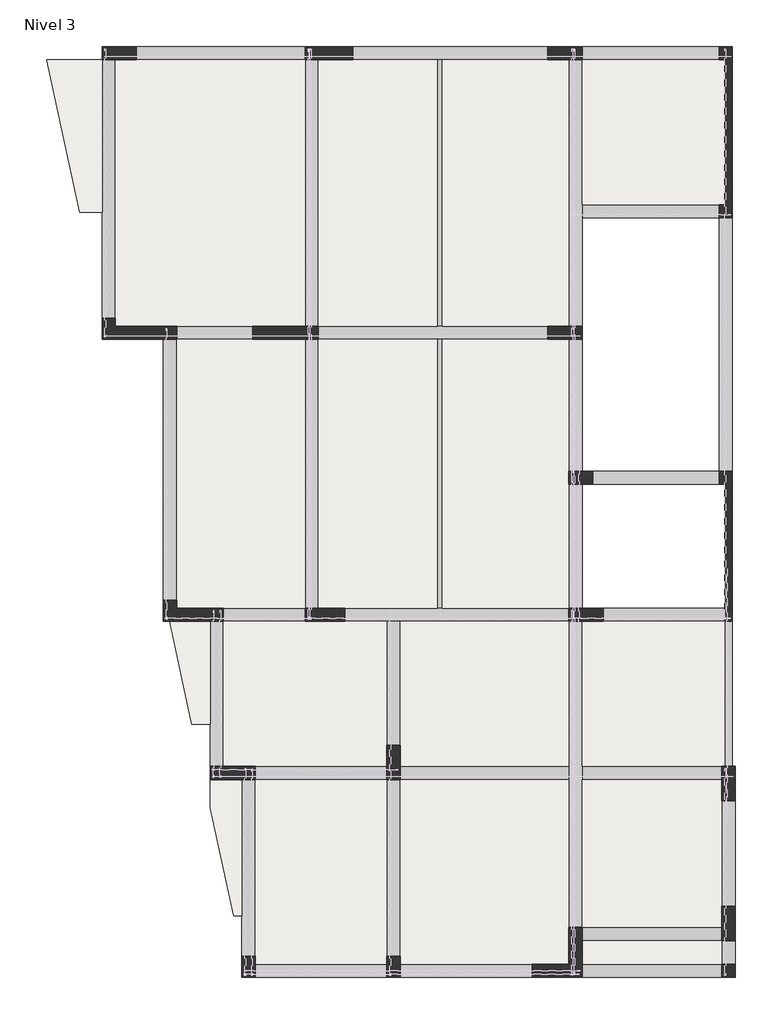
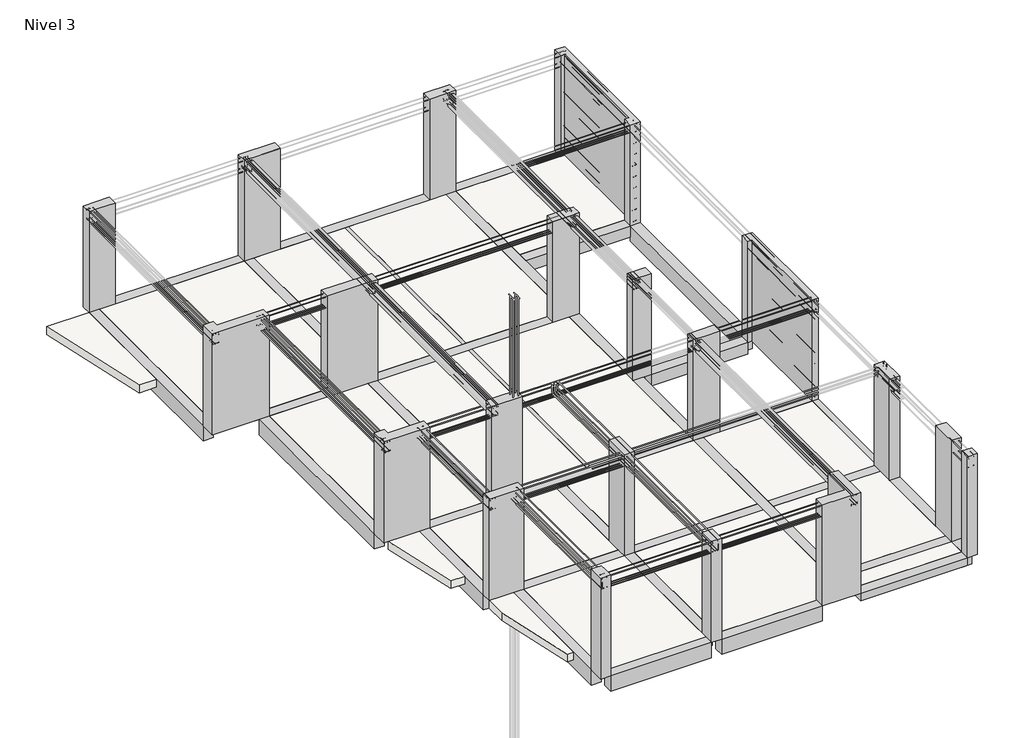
# One storey, part 1 of 4: 35 beams, 20 columns, 17 slabs.
"""IFC4 building model written with IfcOpenShell, lengths in millimetres."""

from ifc_helpers import new_model, si_unit, frame, origin, place, context, project, spatial, polyline, outline, extrude, faceted_brep, transform, mapped, element, save
from components import viga_rectangular_evg_rect_10x20cm_33a10ffb, viga_rectangular_evg_rect_10x20cm_1bd2aa7d, viga_rectangular_evg_rect_15x40_cm_c549a8b6, viga_rectangular_evg_rect_25x20_cm_6cef108b, viga_rectangular_evg_rect_25x20_cm_76eb4939, viga_rectangular_evg_rect_25x20_cm_9c3e1b78, viga_rectangular_evg_rect_25x30cm_620da6b6, viga_rectangular_evg_rect_25x30cm_a66d10a6, viga_rectangular_evg_rect_25x40_cm_2bdd148a, viga_rectangular_evg_rect_25x40_cm_41408228, viga_rectangular_evg_rect_25x40_cm_6a1f8600, viga_rectangular_evg_rect_25x40_cm_fbb3c78d, viga_rectangular_evg_rect_25x40_cm_da4bb42e, viga_rectangular_evg_rect_25x40_cm_90d5ee12, viga_rectangular_evg_rect_25x40_cm_d11aaed7, viga_rectangular_evg_rect_25x40_cm_ec8e30a6, viga_rectangular_evg_rect_25x40_cm_c621c72f, viga_rectangular_evg_rect_25x40_cm_b76ac871, viga_rectangular_evg_rect_25x40_cm_42ceb3dc, viga_rectangular_evg_rect_25x40_cm_400539a3, viga_rectangular_evg_rect_25x40_cm_b1d61e0d, viga_rectangular_evg_rect_25x40_cm_961303b6, viga_rectangular_evg_rect_25x40_cm_5bf8f6ca, viga_rectangular_evg_rect_25x40_cm_e96bc27a, viga_rectangular_evg_rect_25x40_cm_8e48b35e, viga_rectangular_evg_rect_25x40_cm_19945e5e, viga_rectangular_evg_rect_25x40_cm_a6a9dfc2, viga_rectangular_evg_rect_25x40_cm_1dd9ab3c, viga_rectangular_evg_rect_25x40_cm_08c52653, viga_rectangular_evg_rect_25x40_cm_b007f258, viga_rectangular_evg_rect_25x40_cm_85c841cc, column_ebed28f4, column_c322f5df, column_15301578, column_57c9f959, columna_estructural_rectangular_eco_rect_25x25_cm_815699de, columna_estructural_u_eco_u_25x325x25x15_0f70cbe8

model = new_model("IFC4")

# Units and contexts
model_context = context("Model", 3, world=origin())
ifc_project = project(units=[si_unit("LENGTHUNIT", "METRE", prefix="MILLI")], contexts=[model_context])

# Site, building, storey
site = spatial("IfcSite", under=ifc_project)
building = spatial("IfcBuilding", under=site)
storey = spatial("IfcBuildingStorey", under=building, Name="Nivel 3", Elevation=5400.0)

# Beams
placement = place(None, origin())
viga_rectangular_evg_rect_10x20cm_shape = viga_rectangular_evg_rect_10x20cm_33a10ffb(model_context)
element("IfcBeam", 1, ObjectType="Viga Rectangular : EVG_Rect 10x20cm", at=placement, inside=storey, context=model_context, shape_type="MappedRepresentation", body=[
    mapped(viga_rectangular_evg_rect_10x20cm_shape, transform((3750.0, 9550.0, 5400.0), x_axis=(0.0, 1.0, 0.0), y_axis=(-1.0, 0.0, 0.0), z_axis=(0.0, 0.0, 1.0))),
])
viga_rectangular_evg_rect_10x20cm_2_shape = viga_rectangular_evg_rect_10x20cm_1bd2aa7d(model_context)
element("IfcBeam", 2, ObjectType="Viga Rectangular : EVG_Rect 10x20cm", at=placement, inside=storey, context=model_context, shape_type="MappedRepresentation", body=[
    mapped(viga_rectangular_evg_rect_10x20cm_2_shape, transform((3750.0, 14875.0, 5400.0), x_axis=(0.0, 1.0, 0.0), y_axis=(-1.0, 0.0, 0.0), z_axis=(0.0, 0.0, 1.0))),
])
viga_rectangular_evg_rect_15x40_cm_shape = viga_rectangular_evg_rect_15x40_cm_c549a8b6(model_context)
element("IfcBeam", 3, ObjectType="Viga Rectangular : EVG_Rect 15x40 cm", at=placement, inside=storey, context=model_context, shape_type="MappedRepresentation", body=[
    mapped(viga_rectangular_evg_rect_15x40_cm_shape, transform((9225.0, 5375.0, 5400.0), x_axis=(0.0, -1.0, 0.0), y_axis=(1.0, 0.0, 0.0), z_axis=(0.0, 0.0, 1.0))),
])
viga_rectangular_evg_rect_25x20_cm_shape = viga_rectangular_evg_rect_25x20_cm_6cef108b(model_context)
element("IfcBeam", 4, ObjectType="Viga Rectangular : EVG_Rect 25x20 cm", at=placement, inside=storey, context=model_context, shape_type="MappedRepresentation", body=[
    mapped(viga_rectangular_evg_rect_25x20_cm_shape, transform((6325.0, 8175.0, 5400.0), x_axis=(0.0, 1.0, 0.0), y_axis=(-1.0, 0.0, 0.0), z_axis=(0.0, 0.0, 1.0))),
])
viga_rectangular_evg_rect_25x20_cm_2_shape = viga_rectangular_evg_rect_25x20_cm_76eb4939(model_context)
element("IfcBeam", 5, ObjectType="Viga Rectangular : EVG_Rect 25x20 cm", at=placement, inside=storey, context=model_context, shape_type="MappedRepresentation", body=[
    mapped(viga_rectangular_evg_rect_25x20_cm_2_shape, transform((4600.0, 3875.0, 5400.0), x_axis=(1.0, 0.0, 0.0), y_axis=(0.0, 1.0, 0.0), z_axis=(0.0, 0.0, 1.0))),
])
viga_rectangular_evg_rect_25x20_cm_3_shape = viga_rectangular_evg_rect_25x20_cm_9c3e1b78(model_context)
element("IfcBeam", 6, ObjectType="Viga Rectangular : EVG_Rect 25x20 cm", at=placement, inside=storey, context=model_context, shape_type="MappedRepresentation", body=[
    mapped(viga_rectangular_evg_rect_25x20_cm_3_shape, transform((7775.0, 3875.0, 5400.0), x_axis=(1.0, 0.0, 0.0), y_axis=(0.0, 1.0, 0.0), z_axis=(0.0, 0.0, 1.0))),
])
element("IfcBeam", 7, ObjectType="Viga Rectangular : EVG_Rect 25x20 cm", at=placement, inside=storey, context=model_context, shape_type="MappedRepresentation", body=[
    mapped(viga_rectangular_evg_rect_25x20_cm_3_shape, transform((7775.0, 825.0, 5400.0), x_axis=(-1.0, 0.0, 0.0), y_axis=(0.0, -1.0, 0.0), z_axis=(0.0, 0.0, 1.0))),
])
element("IfcBeam", 8, ObjectType="Viga Rectangular : EVG_Rect 25x20 cm", at=placement, inside=storey, context=model_context, shape_type="MappedRepresentation", body=[
    mapped(viga_rectangular_evg_rect_25x20_cm_3_shape, transform((7775.0, 125.0, 5400.0), x_axis=(-1.0, 0.0, 0.0), y_axis=(0.0, -1.0, 0.0), z_axis=(0.0, 0.0, 1.0))),
])
viga_rectangular_evg_rect_25x30cm_shape = viga_rectangular_evg_rect_25x30cm_620da6b6(model_context)
element("IfcBeam", 9, ObjectType="Viga Rectangular : EVG_Rect 25x30cm", at=placement, inside=storey, context=model_context, shape_type="MappedRepresentation", body=[
    mapped(viga_rectangular_evg_rect_25x30cm_shape, transform((7800.0, 9475.0, 5400.0), x_axis=(1.0, 0.0, 0.0), y_axis=(0.0, 1.0, 0.0), z_axis=(0.0, 0.0, 1.0))),
])
viga_rectangular_evg_rect_25x30cm_2_shape = viga_rectangular_evg_rect_25x30cm_a66d10a6(model_context)
element("IfcBeam", 10, ObjectType="Viga Rectangular : EVG_Rect 25x30cm", at=placement, inside=storey, context=model_context, shape_type="MappedRepresentation", body=[
    mapped(viga_rectangular_evg_rect_25x30cm_2_shape, transform((7750.0, 14525.0, 5400.0), x_axis=(-1.0, 0.0, 0.0), y_axis=(0.0, -1.0, 0.0), z_axis=(0.0, 0.0, 1.0))),
])
viga_rectangular_evg_rect_25x40_cm_shape = viga_rectangular_evg_rect_25x40_cm_2bdd148a(model_context)
element("IfcBeam", 11, ObjectType="Viga Rectangular : EVG_Rect 25x40 cm", at=placement, inside=storey, context=model_context, shape_type="MappedRepresentation", body=[
    mapped(viga_rectangular_evg_rect_25x40_cm_shape, transform((6325.0, 3675.0, 5400.0), x_axis=(0.0, 1.0, 0.0), y_axis=(-1.0, 0.0, 0.0), z_axis=(0.0, 0.0, 1.0))),
])
viga_rectangular_evg_rect_25x40_cm_2_shape = viga_rectangular_evg_rect_25x40_cm_41408228(model_context)
element("IfcBeam", 12, ObjectType="Viga Rectangular : EVG_Rect 25x40 cm", at=placement, inside=storey, context=model_context, shape_type="MappedRepresentation", body=[
    mapped(viga_rectangular_evg_rect_25x40_cm_2_shape, transform((3425.0, 12225.0, 5400.0), x_axis=(-1.0, 0.0, 0.0), y_axis=(0.0, -1.0, 0.0), z_axis=(0.0, 0.0, 1.0))),
])
viga_rectangular_evg_rect_25x40_cm_3_shape = viga_rectangular_evg_rect_25x40_cm_6a1f8600(model_context)
element("IfcBeam", 13, ObjectType="Viga Rectangular : EVG_Rect 25x40 cm", at=placement, inside=storey, context=model_context, shape_type="MappedRepresentation", body=[
    mapped(viga_rectangular_evg_rect_25x40_cm_3_shape, transform((-560.0, 12225.0, 5400.0), x_axis=(1.0, 0.0, 0.0), y_axis=(0.0, 1.0, 0.0), z_axis=(0.0, 0.0, 1.0))),
])
viga_rectangular_evg_rect_25x40_cm_4_shape = viga_rectangular_evg_rect_25x40_cm_fbb3c78d(model_context)
element("IfcBeam", 14, ObjectType="Viga Rectangular : EVG_Rect 25x40 cm", at=placement, inside=storey, context=model_context, shape_type="MappedRepresentation", body=[
    mapped(viga_rectangular_evg_rect_25x40_cm_4_shape, transform((-337.5, 17525.0, 5400.0), x_axis=(1.0, 0.0, 0.0), y_axis=(0.0, 1.0, 0.0), z_axis=(0.0, 0.0, 1.0))),
])
viga_rectangular_evg_rect_25x40_cm_5_shape = viga_rectangular_evg_rect_25x40_cm_da4bb42e(model_context)
element("IfcBeam", 15, ObjectType="Viga Rectangular : EVG_Rect 25x40 cm", at=placement, inside=storey, context=model_context, shape_type="MappedRepresentation", body=[
    mapped(viga_rectangular_evg_rect_25x40_cm_5_shape, transform((3887.5, 17525.0, 5400.0), x_axis=(1.0, 0.0, 0.0), y_axis=(0.0, 1.0, 0.0), z_axis=(0.0, 0.0, 1.0))),
])
viga_rectangular_evg_rect_25x40_cm_6_shape = viga_rectangular_evg_rect_25x40_cm_90d5ee12(model_context)
element("IfcBeam", 16, ObjectType="Viga Rectangular : EVG_Rect 25x40 cm", at=placement, inside=storey, context=model_context, shape_type="MappedRepresentation", body=[
    mapped(viga_rectangular_evg_rect_25x40_cm_6_shape, transform((1350.0, 3875.0, 5400.0), x_axis=(1.0, 0.0, 0.0), y_axis=(0.0, 1.0, 0.0), z_axis=(0.0, 0.0, 1.0))),
])
viga_rectangular_evg_rect_25x40_cm_7_shape = viga_rectangular_evg_rect_25x40_cm_d11aaed7(model_context)
element("IfcBeam", 17, ObjectType="Viga Rectangular : EVG_Rect 25x40 cm", at=placement, inside=storey, context=model_context, shape_type="MappedRepresentation", body=[
    mapped(viga_rectangular_evg_rect_25x40_cm_7_shape, transform((1500.0, 125.0, 5400.0), x_axis=(-1.0, 0.0, 0.0), y_axis=(0.0, -1.0, 0.0), z_axis=(0.0, 0.0, 1.0))),
])
element("IfcBeam", 18, ObjectType="Viga Rectangular : EVG_Rect 25x40 cm", at=placement, inside=storey, context=model_context, shape_type="MappedRepresentation", body=[
    mapped(viga_rectangular_evg_rect_25x40_cm_7_shape, transform((6325.0, 10850.0, 5400.0), x_axis=(0.0, 1.0, 0.0), y_axis=(-1.0, 0.0, 0.0), z_axis=(0.0, 0.0, 1.0))),
])
viga_rectangular_evg_rect_25x40_cm_8_shape = viga_rectangular_evg_rect_25x40_cm_ec8e30a6(model_context)
element("IfcBeam", 19, ObjectType="Viga Rectangular : EVG_Rect 25x40 cm", at=placement, inside=storey, context=model_context, shape_type="MappedRepresentation", body=[
    mapped(viga_rectangular_evg_rect_25x40_cm_8_shape, transform((4600.0, 125.0, 5400.0), x_axis=(1.0, 0.0, 0.0), y_axis=(0.0, 1.0, 0.0), z_axis=(0.0, 0.0, 1.0))),
])
viga_rectangular_evg_rect_25x40_cm_9_shape = viga_rectangular_evg_rect_25x40_cm_c621c72f(model_context)
element("IfcBeam", 20, ObjectType="Viga Rectangular : EVG_Rect 25x40 cm", at=placement, inside=storey, context=model_context, shape_type="MappedRepresentation", body=[
    mapped(viga_rectangular_evg_rect_25x40_cm_9_shape, transform((125.0, 2037.5, 5400.0), x_axis=(0.0, 1.0, 0.0), y_axis=(-1.0, 0.0, 0.0), z_axis=(0.0, 0.0, 1.0))),
])
viga_rectangular_evg_rect_25x40_cm_10_shape = viga_rectangular_evg_rect_25x40_cm_b76ac871(model_context)
element("IfcBeam", 21, ObjectType="Viga Rectangular : EVG_Rect 25x40 cm", at=placement, inside=storey, context=model_context, shape_type="MappedRepresentation", body=[
    mapped(viga_rectangular_evg_rect_25x40_cm_10_shape, transform((2875.0, 2137.5, 5400.0), x_axis=(0.0, 1.0, 0.0), y_axis=(-1.0, 0.0, 0.0), z_axis=(0.0, 0.0, 1.0))),
])
viga_rectangular_evg_rect_25x40_cm_11_shape = viga_rectangular_evg_rect_25x40_cm_42ceb3dc(model_context)
element("IfcBeam", 22, ObjectType="Viga Rectangular : EVG_Rect 25x40 cm", at=placement, inside=storey, context=model_context, shape_type="MappedRepresentation", body=[
    mapped(viga_rectangular_evg_rect_25x40_cm_11_shape, transform((-475.0, 5375.0, 5400.0), x_axis=(0.0, 1.0, 0.0), y_axis=(-1.0, 0.0, 0.0), z_axis=(0.0, 0.0, 1.0))),
])
viga_rectangular_evg_rect_25x40_cm_12_shape = viga_rectangular_evg_rect_25x40_cm_400539a3(model_context)
element("IfcBeam", 23, ObjectType="Viga Rectangular : EVG_Rect 25x40 cm", at=placement, inside=storey, context=model_context, shape_type="MappedRepresentation", body=[
    mapped(viga_rectangular_evg_rect_25x40_cm_12_shape, transform((9225.0, 575.0, 5400.0), x_axis=(0.0, 1.0, 0.0), y_axis=(-1.0, 0.0, 0.0), z_axis=(0.0, 0.0, 1.0))),
])
viga_rectangular_evg_rect_25x40_cm_13_shape = viga_rectangular_evg_rect_25x40_cm_b1d61e0d(model_context)
element("IfcBeam", 24, ObjectType="Viga Rectangular : EVG_Rect 25x40 cm", at=placement, inside=storey, context=model_context, shape_type="MappedRepresentation", body=[
    mapped(viga_rectangular_evg_rect_25x40_cm_13_shape, transform((9225.0, 2350.0, 5400.0), x_axis=(0.0, 1.0, 0.0), y_axis=(-1.0, 0.0, 0.0), z_axis=(0.0, 0.0, 1.0))),
])
viga_rectangular_evg_rect_25x40_cm_14_shape = viga_rectangular_evg_rect_25x40_cm_961303b6(model_context)
element("IfcBeam", 25, ObjectType="Viga Rectangular : EVG_Rect 25x40 cm", at=placement, inside=storey, context=model_context, shape_type="MappedRepresentation", body=[
    mapped(viga_rectangular_evg_rect_25x40_cm_14_shape, transform((7875.0, 6875.0, 5400.0), x_axis=(1.0, 0.0, 0.0), y_axis=(0.0, 1.0, 0.0), z_axis=(0.0, 0.0, 1.0))),
])
viga_rectangular_evg_rect_25x40_cm_15_shape = viga_rectangular_evg_rect_25x40_cm_5bf8f6ca(model_context)
element("IfcBeam", 26, ObjectType="Viga Rectangular : EVG_Rect 25x40 cm", at=placement, inside=storey, context=model_context, shape_type="MappedRepresentation", body=[
    mapped(viga_rectangular_evg_rect_25x40_cm_15_shape, transform((-1365.0, 9587.5, 5400.0), x_axis=(0.0, 1.0, 0.0), y_axis=(-1.0, 0.0, 0.0), z_axis=(0.0, 0.0, 1.0))),
])
viga_rectangular_evg_rect_25x40_cm_16_shape = viga_rectangular_evg_rect_25x40_cm_e96bc27a(model_context)
element("IfcBeam", 27, ObjectType="Viga Rectangular : EVG_Rect 25x40 cm", at=placement, inside=storey, context=model_context, shape_type="MappedRepresentation", body=[
    mapped(viga_rectangular_evg_rect_25x40_cm_16_shape, transform((9175.0, 11985.0, 5400.0), x_axis=(0.0, 1.0, 0.0), y_axis=(-1.0, 0.0, 0.0), z_axis=(0.0, 0.0, 1.0))),
])
viga_rectangular_evg_rect_25x40_cm_17_shape = viga_rectangular_evg_rect_25x40_cm_8e48b35e(model_context)
element("IfcBeam", 28, ObjectType="Viga Rectangular : EVG_Rect 25x40 cm", at=placement, inside=storey, context=model_context, shape_type="MappedRepresentation", body=[
    mapped(viga_rectangular_evg_rect_25x40_cm_17_shape, transform((6325.0, 14875.0, 5400.0), x_axis=(0.0, 1.0, 0.0), y_axis=(-1.0, 0.0, 0.0), z_axis=(0.0, 0.0, 1.0))),
])
element("IfcBeam", 29, ObjectType="Viga Rectangular : EVG_Rect 25x40 cm", at=placement, inside=storey, context=model_context, shape_type="MappedRepresentation", body=[
    mapped(viga_rectangular_evg_rect_25x40_cm_17_shape, transform((1325.0, 14875.0, 5400.0), x_axis=(0.0, 1.0, 0.0), y_axis=(-1.0, 0.0, 0.0), z_axis=(0.0, 0.0, 1.0))),
])
viga_rectangular_evg_rect_25x40_cm_18_shape = viga_rectangular_evg_rect_25x40_cm_19945e5e(model_context)
element("IfcBeam", 30, ObjectType="Viga Rectangular : EVG_Rect 25x40 cm", at=placement, inside=storey, context=model_context, shape_type="MappedRepresentation", body=[
    mapped(viga_rectangular_evg_rect_25x40_cm_18_shape, transform((-2525.0, 14912.5, 5400.0), x_axis=(0.0, 1.0, 0.0), y_axis=(-1.0, 0.0, 0.0), z_axis=(0.0, 0.0, 1.0))),
])
viga_rectangular_evg_rect_25x40_cm_19_shape = viga_rectangular_evg_rect_25x40_cm_a6a9dfc2(model_context)
element("IfcBeam", 31, ObjectType="Viga Rectangular : EVG_Rect 25x40 cm", at=placement, inside=storey, context=model_context, shape_type="MappedRepresentation", body=[
    mapped(viga_rectangular_evg_rect_25x40_cm_19_shape, transform((327.5, 6875.0, 5400.0), x_axis=(1.0, 0.0, 0.0), y_axis=(0.0, 1.0, 0.0), z_axis=(0.0, 0.0, 1.0))),
])
viga_rectangular_evg_rect_25x40_cm_20_shape = viga_rectangular_evg_rect_25x40_cm_1dd9ab3c(model_context)
element("IfcBeam", 32, ObjectType="Viga Rectangular : EVG_Rect 25x40 cm", at=placement, inside=storey, context=model_context, shape_type="MappedRepresentation", body=[
    mapped(viga_rectangular_evg_rect_25x40_cm_20_shape, transform((4050.0, 6875.0, 5400.0), x_axis=(-1.0, 0.0, 0.0), y_axis=(0.0, -1.0, 0.0), z_axis=(0.0, 0.0, 1.0))),
])
viga_rectangular_evg_rect_25x40_cm_21_shape = viga_rectangular_evg_rect_25x40_cm_08c52653(model_context)
element("IfcBeam", 33, ObjectType="Viga Rectangular : EVG_Rect 25x40 cm", at=placement, inside=storey, context=model_context, shape_type="MappedRepresentation", body=[
    mapped(viga_rectangular_evg_rect_25x40_cm_21_shape, transform((2875.0, 5502.6028662, 5400.0), x_axis=(0.0, 1.0, 0.0), y_axis=(-1.0, 0.0, 0.0), z_axis=(0.0, 0.0, 1.0))),
])
viga_rectangular_evg_rect_25x40_cm_22_shape = viga_rectangular_evg_rect_25x40_cm_b007f258(model_context)
element("IfcBeam", 34, ObjectType="Viga Rectangular : EVG_Rect 25x40 cm", at=placement, inside=storey, context=model_context, shape_type="MappedRepresentation", body=[
    mapped(viga_rectangular_evg_rect_25x40_cm_22_shape, transform((1325.0, 9541.2430955, 5400.0), x_axis=(0.0, 1.0, 0.0), y_axis=(-1.0, 0.0, 0.0), z_axis=(0.0, 0.0, 1.0))),
])
viga_rectangular_evg_rect_25x40_cm_23_shape = viga_rectangular_evg_rect_25x40_cm_85c841cc(model_context)
element("IfcBeam", 35, ObjectType="Viga Rectangular : EVG_Rect 25x40 cm", at=placement, inside=storey, context=model_context, shape_type="MappedRepresentation", body=[
    mapped(viga_rectangular_evg_rect_25x40_cm_23_shape, transform((7675.0, 17525.0, 5400.0), x_axis=(1.0, 0.0, 0.0), y_axis=(0.0, 1.0, 0.0), z_axis=(0.0, 0.0, 1.0))),
])

# Columns
column_shape = column_ebed28f4(model_context)
element("IfcColumn", 36, ObjectType="Columna Estructural Ele : ECO_Ele 40x141x25", at=placement, inside=storey, context=model_context, shape_type="MappedRepresentation", body=[
    mapped(column_shape, transform((-2525.0, 12225.0, 0.0), x_axis=(1.0, 0.0, 0.0), y_axis=(0.0, 1.0, 0.0), z_axis=(0.0, 0.0, 1.0))),
])
column_2_shape = column_c322f5df(model_context)
element("IfcColumn", 37, ObjectType="Columna Estructural Ele : ECO_Ele 40x114x25", at=placement, inside=storey, context=model_context, shape_type="MappedRepresentation", body=[
    mapped(column_2_shape, transform((-1365.0, 6875.0, 0.0), x_axis=(1.0, 0.0, 0.0), y_axis=(0.0, 1.0, 0.0), z_axis=(0.0, 0.0, 1.0))),
])
column_3_shape = column_15301578(model_context)
element("IfcColumn", 38, ObjectType="Columna Estructural Ele : ECO_Ele 25x285x25", at=placement, inside=storey, context=model_context, shape_type="MappedRepresentation", body=[
    mapped(column_3_shape, transform((9225.0, 9475.0, 0.0), x_axis=(0.0, -1.0, 0.0), y_axis=(1.0, 0.0, 0.0), z_axis=(0.0, 0.0, 1.0))),
])
column_4_shape = column_57c9f959(model_context)
element("IfcColumn", 39, ObjectType="Columna Estructural Ele : ECO_Ele 95x95x25", at=placement, inside=storey, context=model_context, shape_type="MappedRepresentation", body=[
    mapped(column_4_shape, transform((6325.0, 125.0, 0.0), x_axis=(0.0, 1.0, 0.0), y_axis=(-1.0, 0.0, 0.0), z_axis=(0.0, 0.0, 1.0))),
])
element("IfcColumn", 40, ObjectType="Columna Estructural Rectangular : ECO_Rect. 25x125 cm", at=placement, inside=storey, context=model_context, shape_type="Brep", body=[
    faceted_brep([(200.0, 12350.0, 5400.0), (1450.0, 12350.0, 5400.0), (1450.0, 12100.0, 5400.0), (200.0, 12100.0, 5400.0), (200.0, 12350.0, 8050.0), (1200.0, 12350.0, 8050.0), (1450.0, 12350.0, 8050.0), (1450.0, 12100.0, 8050.0), (1200.0, 12100.0, 8050.0), (200.0, 12100.0, 8050.0)], [[[0, 1, 2, 3]], [[4, 5, 6, 1, 0]], [[6, 7, 2, 1]], [[7, 8, 9, 3, 2]], [[9, 4, 0, 3]], [[4, 9, 8, 7, 6, 5]]]),
])
columna_estructural_rectangular_eco_rect_25x25_cm_shape = columna_estructural_rectangular_eco_rect_25x25_cm_815699de(model_context)
element("IfcColumn", 41, ObjectType="Columna Estructural Rectangular : ECO_Rect. 25x25 cm", at=placement, inside=storey, context=model_context, shape_type="MappedRepresentation", body=[
    mapped(columna_estructural_rectangular_eco_rect_25x25_cm_shape, transform((9225.0, 125.0, 0.0), x_axis=(-1.0, 0.0, 0.0), y_axis=(0.0, -1.0, 0.0), z_axis=(0.0, 0.0, 1.0))),
])
element("IfcColumn", 42, ObjectType="Columna Estructural Rectangular : ECO_Rect. 25x40 cm", at=placement, inside=storey, context=model_context, shape_type="Brep", body=[
    faceted_brep([(0.0, 0.0, 5400.0), (0.0, 400.0, 5400.0), (250.0, 400.0, 5400.0), (250.0, 0.0, 5400.0), (0.0, 0.0, 8050.0), (0.0, 400.0, 8050.0), (250.0, 400.0, 8050.0), (250.0, 250.0, 8050.0), (250.0, 0.0, 8050.0)], [[[0, 1, 2, 3]], [[4, 5, 1, 0]], [[5, 6, 2, 1]], [[6, 7, 8, 3, 2]], [[8, 4, 0, 3]], [[4, 8, 7, 6, 5]]]),
])
element("IfcColumn", 43, ObjectType="Columna Estructural Rectangular : ECO_Rect. 25x40 cm", at=placement, inside=storey, context=model_context, shape_type="Brep", body=[
    faceted_brep([(2750.0, 0.0, 5400.0), (2750.0, 400.0, 5400.0), (3000.0, 400.0, 5400.0), (3000.0, 0.0, 5400.0), (2750.0, 0.0, 8050.0), (2750.0, 250.0, 8050.0), (2750.0, 400.0, 8050.0), (3000.0, 400.0, 8050.0), (3000.0, 250.0, 8050.0), (3000.0, 0.0, 8050.0)], [[[0, 1, 2, 3]], [[4, 5, 6, 1, 0]], [[6, 7, 2, 1]], [[7, 8, 9, 3, 2]], [[9, 4, 0, 3]], [[4, 9, 8, 7, 6, 5]]]),
])
element("IfcColumn", 44, ObjectType="Columna Estructural Rectangular : ECO_Rect. 25x45 cm", at=placement, inside=storey, context=model_context, shape_type="SweptSolid", body=[
    extrude(outline(polyline([(6200.0, 9600.0), (6650.0, 9600.0), (6650.0, 9350.0), (6200.0, 9350.0), (6200.0, 9600.0)])), frame((0.0, 0.0, 5400.0), z_axis=(0.0, 0.0, 1.0), x_axis=(1.0, 0.0, 0.0)), (0.0, 0.0, 1.0), 2650.0),
])
element("IfcColumn", 45, ObjectType="Columna Estructural Rectangular : ECO_Rect. 25x65 cm", at=placement, inside=storey, context=model_context, shape_type="Brep", body=[
    faceted_brep([(-2650.0, 17650.0, 5400.0), (-2000.0, 17650.0, 5400.0), (-2000.0, 17400.0, 5400.0), (-2650.0, 17400.0, 5400.0), (-2650.0, 17650.0, 8050.0), (-2000.0, 17650.0, 8050.0), (-2650.0, 17650.0, 7850.0), (-2000.0, 17400.0, 8050.0), (-2400.0, 17400.0, 8050.0), (-2650.0, 17400.0, 8050.0)], [[[0, 1, 2, 3]], [[4, 5, 1, 0, 6]], [[5, 7, 2, 1]], [[7, 8, 9, 3, 2]], [[9, 4, 6, 0, 3]], [[4, 9, 8, 7, 5]]]),
])
element("IfcColumn", 46, ObjectType="Columna Estructural Rectangular : ECO_Rect. 25x65 cm", at=placement, inside=storey, context=model_context, shape_type="Brep", body=[
    faceted_brep([(5800.0, 17650.0, 5400.0), (6450.0, 17650.0, 5400.0), (6450.0, 17400.0, 5400.0), (5800.0, 17400.0, 5400.0), (5800.0, 17650.0, 8050.0), (6450.0, 17650.0, 8050.0), (6450.0, 17400.0, 8050.0), (6200.0, 17400.0, 8050.0), (5800.0, 17400.0, 8050.0)], [[[0, 1, 2, 3]], [[4, 5, 1, 0]], [[5, 6, 2, 1]], [[6, 7, 8, 3, 2]], [[8, 4, 0, 3]], [[4, 8, 7, 6, 5]]]),
])
element("IfcColumn", 47, ObjectType="Columna Estructural Rectangular : ECO_Rect. 25x65 cm", at=placement, inside=storey, context=model_context, shape_type="Brep", body=[
    faceted_brep([(5800.0, 12350.0, 5400.0), (6450.0, 12350.0, 5400.0), (6450.0, 12100.0, 5400.0), (5800.0, 12100.0, 5400.0), (5800.0, 12350.0, 8050.0), (6200.0, 12350.0, 8050.0), (6450.0, 12350.0, 8050.0), (6450.0, 12100.0, 8050.0), (6200.0, 12100.0, 8050.0), (5800.0, 12100.0, 8050.0)], [[[0, 1, 2, 3]], [[4, 5, 6, 1, 0]], [[6, 7, 2, 1]], [[7, 8, 9, 3, 2]], [[9, 4, 0, 3]], [[4, 9, 8, 7, 6, 5]]]),
])
element("IfcColumn", 48, ObjectType="Columna Estructural Rectangular : ECO_Rect. 25x65 cm", at=placement, inside=storey, context=model_context, shape_type="Brep", body=[
    faceted_brep([(6200.0, 7000.0, 5400.0), (6850.0, 7000.0, 5400.0), (6850.0, 6750.0, 5400.0), (6200.0, 6750.0, 5400.0), (6200.0, 7000.0, 8050.0), (6850.0, 7000.0, 8050.0), (6850.0, 6750.0, 8050.0), (6450.0, 6750.0, 8050.0), (6200.0, 6750.0, 8050.0)], [[[0, 1, 2, 3]], [[4, 5, 1, 0]], [[5, 6, 2, 1]], [[6, 7, 8, 3, 2]], [[8, 4, 0, 3]], [[4, 8, 7, 6, 5]]]),
])
element("IfcColumn", 49, ObjectType="Columna Estructural Rectangular : ECO_Rect. 25x65 cm", at=placement, inside=storey, context=model_context, shape_type="Brep", body=[
    faceted_brep([(2750.0, 3750.0, 5400.0), (2750.0, 4400.0, 5400.0), (3000.0, 4400.0, 5400.0), (3000.0, 3750.0, 5400.0), (2750.0, 3750.0, 8050.0), (2750.0, 4000.0, 8050.0), (2750.0, 4400.0, 8050.0), (3000.0, 4400.0, 8050.0), (3000.0, 4000.0, 8050.0), (3000.0, 3750.0, 8050.0)], [[[0, 1, 2, 3]], [[4, 5, 6, 1, 0]], [[6, 7, 2, 1]], [[7, 8, 9, 3, 2]], [[9, 4, 0, 3]], [[4, 9, 8, 7, 6, 5]]]),
])
element("IfcColumn", 50, ObjectType="Columna Estructural Rectangular : ECO_Rect. 25x65 cm", at=placement, inside=storey, context=model_context, shape_type="Brep", body=[
    faceted_brep([(9100.0, 3350.0, 5400.0), (9100.0, 4000.0, 5400.0), (9350.0, 4000.0, 5400.0), (9350.0, 3350.0, 5400.0), (9100.0, 3350.0, 8050.0), (9100.0, 3750.0, 8050.0), (9100.0, 4000.0, 8050.0), (9150.0, 4000.0, 8050.0), (9350.0, 4000.0, 8050.0), (9350.0, 3350.0, 8050.0)], [[[0, 1, 2, 3]], [[4, 5, 6, 1, 0]], [[6, 7, 8, 2, 1]], [[8, 9, 3, 2]], [[9, 4, 0, 3]], [[4, 9, 8, 7, 6, 5]]]),
])
element("IfcColumn", 51, ObjectType="Columna Estructural Rectangular : ECO_Rect. 25x65 cm", at=placement, inside=storey, context=model_context, shape_type="Brep", body=[
    faceted_brep([(9100.0, 700.0, 5400.0), (9100.0, 1350.0, 5400.0), (9350.0, 1350.0, 5400.0), (9350.0, 700.0, 5400.0), (9100.0, 700.0, 8050.0), (9100.0, 950.0, 8050.0), (9100.0, 1350.0, 8050.0), (9350.0, 1350.0, 8050.0), (9350.0, 700.0, 8050.0)], [[[0, 1, 2, 3]], [[4, 5, 6, 1, 0]], [[6, 7, 2, 1]], [[7, 8, 3, 2]], [[8, 4, 0, 3]], [[4, 8, 7, 6, 5]]]),
])
element("IfcColumn", 52, ObjectType="Columna Estructural Rectangular : ECO_Rect. 25x75 cm", at=placement, inside=storey, context=model_context, shape_type="Brep", body=[
    faceted_brep([(1200.0, 7000.0, 5400.0), (1950.0, 7000.0, 5400.0), (1950.0, 6750.0, 5400.0), (1200.0, 6750.0, 5400.0), (1200.0, 7000.0, 8050.0), (1450.0, 7000.0, 8050.0), (1950.0, 7000.0, 8050.0), (1950.0, 6750.0, 8050.0), (1200.0, 6750.0, 8050.0)], [[[0, 1, 2, 3]], [[4, 5, 6, 1, 0]], [[6, 7, 2, 1]], [[7, 8, 3, 2]], [[8, 4, 0, 3]], [[4, 8, 7, 6, 5]]]),
])
element("IfcColumn", 53, ObjectType="Columna Estructural Rectangular : ECO_Rect. 25x85 cm", at=placement, inside=storey, context=model_context, shape_type="Brep", body=[
    faceted_brep([(-600.0, 4000.0, 5400.0), (250.0, 4000.0, 5400.0), (250.0, 3750.0, 5400.0), (-600.0, 3750.0, 5400.0), (-600.0, 4000.0, 8050.0), (-350.0, 4000.0, 8050.0), (250.0, 4000.0, 8050.0), (250.0, 3750.0, 8050.0), (0.0, 3750.0, 8050.0), (-600.0, 3750.0, 8050.0), (-600.0, 3750.0, 7850.0)], [[[0, 1, 2, 3]], [[4, 5, 6, 1, 0]], [[6, 7, 2, 1]], [[7, 8, 9, 10, 3, 2]], [[9, 4, 0, 3, 10]], [[4, 9, 8, 7, 6, 5]]]),
])
element("IfcColumn", 54, ObjectType="Columna Estructural Rectangular : ECO_Rect. 25x90 cm", at=placement, inside=storey, context=model_context, shape_type="Brep", body=[
    faceted_brep([(1200.0, 17650.0, 5400.0), (2100.0, 17650.0, 5400.0), (2100.0, 17400.0, 5400.0), (1200.0, 17400.0, 5400.0), (1200.0, 17650.0, 8050.0), (2100.0, 17650.0, 8050.0), (2100.0, 17400.0, 8050.0), (1450.0, 17400.0, 8050.0), (1200.0, 17400.0, 8050.0)], [[[0, 1, 2, 3]], [[4, 5, 1, 0]], [[5, 6, 2, 1]], [[6, 7, 8, 3, 2]], [[8, 4, 0, 3]], [[4, 8, 7, 6, 5]]]),
])
columna_estructural_u_eco_u_25x325x25x15_shape = columna_estructural_u_eco_u_25x325x25x15_0f70cbe8(model_context)
element("IfcColumn", 55, ObjectType="Columna Estructural U : ECO_U 25x325x25x15", at=placement, inside=storey, context=model_context, shape_type="MappedRepresentation", body=[
    mapped(columna_estructural_u_eco_u_25x325x25x15_shape, transform((9225.0, 16025.0, 0.0), x_axis=(0.0, 1.0, 0.0), y_axis=(-1.0, 0.0, 0.0), z_axis=(0.0, 0.0, 1.0))),
])

# Slabs
element("IfcSlab", 56, ObjectType="ELA_Losa Aligerada e=20 cm", at=placement, inside=storey, context=model_context, shape_type="Brep", body=[
    faceted_brep([(1200.0, 17400.0, 5200.0), (1200.0, 12350.0, 5200.0), (-2400.0, 12350.0, 5200.0), (-2400.0, 17400.0, 5200.0), (1200.0, 17400.0, 5400.0), (-2000.0, 17400.0, 5400.0), (-2400.0, 17400.0, 5400.0), (-2400.0, 12350.0, 5400.0), (200.0, 12350.0, 5400.0), (1200.0, 12350.0, 5400.0)], [[[0, 1, 2, 3]], [[4, 5, 6, 7, 8, 9]], [[1, 0, 4, 9]], [[2, 1, 9, 8, 7]], [[3, 2, 7, 6]], [[0, 3, 6, 5, 4]]]),
])
element("IfcSlab", 57, ObjectType="ELA_Losa Aligerada e=20 cm", at=placement, inside=storey, context=model_context, shape_type="Brep", body=[
    faceted_brep([(3700.0, 17400.0, 5200.0), (3700.0, 12350.0, 5200.0), (1450.0, 12350.0, 5200.0), (1450.0, 17400.0, 5200.0), (3700.0, 17400.0, 5400.0), (2100.0, 17400.0, 5400.0), (1450.0, 17400.0, 5400.0), (1450.0, 12350.0, 5400.0), (3700.0, 12350.0, 5400.0)], [[[0, 1, 2, 3]], [[4, 5, 6, 7, 8]], [[1, 0, 4, 8]], [[2, 1, 8, 7]], [[3, 2, 7, 6]], [[0, 3, 6, 5, 4]]]),
])
element("IfcSlab", 58, ObjectType="ELA_Losa Aligerada e=20 cm", at=placement, inside=storey, context=model_context, shape_type="Brep", body=[
    faceted_brep([(6200.0, 17400.0, 5200.0), (6200.0, 12350.0, 5200.0), (3800.0, 12350.0, 5200.0), (3800.0, 17400.0, 5200.0), (6200.0, 17400.0, 5400.0), (5800.0, 17400.0, 5400.0), (3800.0, 17400.0, 5400.0), (3800.0, 12350.0, 5400.0), (5800.0, 12350.0, 5400.0), (6200.0, 12350.0, 5400.0)], [[[0, 1, 2, 3]], [[4, 5, 6, 7, 8, 9]], [[1, 0, 4, 9]], [[2, 1, 9, 8, 7]], [[3, 2, 7, 6]], [[0, 3, 6, 5, 4]]]),
])
element("IfcSlab", 59, ObjectType="ELA_Losa Aligerada e=20 cm", at=placement, inside=storey, context=model_context, shape_type="SweptSolid", body=[
    extrude(outline(polyline([(9150.0, 17400.0), (9150.0, 14650.0), (6450.0, 14650.0), (6450.0, 17400.0), (9150.0, 17400.0)])), frame((0.0, 0.0, 5200.0), z_axis=(0.0, 0.0, 1.0), x_axis=(1.0, 0.0, 0.0)), (0.0, 0.0, 1.0), 200.0),
])
element("IfcSlab", 60, ObjectType="ELA_Losa Aligerada e=20 cm", at=placement, inside=storey, context=model_context, shape_type="Brep", body=[
    faceted_brep([(1200.0, 12100.0, 5200.0), (1200.0, 7000.0, 5200.0), (-1240.0, 7000.0, 5200.0), (-1240.0, 12100.0, 5200.0), (1200.0, 12100.0, 5400.0), (200.0, 12100.0, 5400.0), (-1240.0, 12100.0, 5400.0), (-1240.0, 7000.0, 5400.0), (1200.0, 7000.0, 5400.0)], [[[0, 1, 2, 3]], [[4, 5, 6, 7, 8]], [[1, 0, 4, 8]], [[2, 1, 8, 7]], [[3, 2, 7, 6]], [[0, 3, 6, 5, 4]]]),
])
element("IfcSlab", 61, ObjectType="ELA_Losa Aligerada e=20 cm", at=placement, inside=storey, context=model_context, shape_type="Brep", body=[
    faceted_brep([(3700.0, 12100.0, 5200.0), (3700.0, 7000.0, 5200.0), (1450.0, 7000.0, 5200.0), (1450.0, 12100.0, 5200.0), (3700.0, 12100.0, 5400.0), (1450.0, 12100.0, 5400.0), (1450.0, 7000.0, 5400.0), (1950.0, 7000.0, 5400.0), (3700.0, 7000.0, 5400.0)], [[[0, 1, 2, 3]], [[4, 5, 6, 7, 8]], [[1, 0, 4, 8]], [[2, 1, 8, 7, 6]], [[3, 2, 6, 5]], [[0, 3, 5, 4]]]),
])
element("IfcSlab", 62, ObjectType="ELA_Losa Aligerada e=20 cm", at=placement, inside=storey, context=model_context, shape_type="Brep", body=[
    faceted_brep([(6200.0, 12100.0, 5200.0), (6200.0, 7000.0, 5200.0), (3800.0, 7000.0, 5200.0), (3800.0, 12100.0, 5200.0), (6200.0, 12100.0, 5400.0), (5800.0, 12100.0, 5400.0), (3800.0, 12100.0, 5400.0), (3800.0, 7000.0, 5400.0), (6200.0, 7000.0, 5400.0), (6200.0, 9350.0, 5400.0), (6200.0, 9600.0, 5400.0)], [[[0, 1, 2, 3]], [[4, 5, 6, 7, 8, 9, 10]], [[1, 0, 4, 10, 9, 8]], [[2, 1, 8, 7]], [[3, 2, 7, 6]], [[0, 3, 6, 5, 4]]]),
])
element("IfcSlab", 63, ObjectType="ELA_Losa Aligerada e=20 cm", at=placement, inside=storey, context=model_context, shape_type="Brep", body=[
    faceted_brep([(2750.0, 6750.0, 5200.0), (2750.0, 4000.0, 5200.0), (-350.0, 4000.0, 5200.0), (-350.0, 6750.0, 5200.0), (2750.0, 6750.0, 5400.0), (1950.0, 6750.0, 5400.0), (1200.0, 6750.0, 5400.0), (-350.0, 6750.0, 5400.0), (-350.0, 4000.0, 5400.0), (250.0, 4000.0, 5400.0), (2750.0, 4000.0, 5400.0), (2750.0, 4400.0, 5400.0)], [[[0, 1, 2, 3]], [[4, 5, 6, 7, 8, 9, 10, 11]], [[1, 0, 4, 11, 10]], [[2, 1, 10, 9, 8]], [[3, 2, 8, 7]], [[0, 3, 7, 6, 5, 4]]]),
])
element("IfcSlab", 64, ObjectType="ELA_Losa Aligerada e=20 cm", at=placement, inside=storey, context=model_context, shape_type="Brep", body=[
    faceted_brep([(6200.0, 6750.0, 5200.0), (6200.0, 4000.0, 5200.0), (3000.0, 4000.0, 5200.0), (3000.0, 6750.0, 5200.0), (6200.0, 6750.0, 5400.0), (3000.0, 6750.0, 5400.0), (3000.0, 4400.0, 5400.0), (3000.0, 4000.0, 5400.0), (6200.0, 4000.0, 5400.0)], [[[0, 1, 2, 3]], [[4, 5, 6, 7, 8]], [[1, 0, 4, 8]], [[2, 1, 8, 7]], [[3, 2, 7, 6, 5]], [[0, 3, 5, 4]]]),
])
element("IfcSlab", 65, ObjectType="ELA_Losa Aligerada e=20 cm", at=placement, inside=storey, context=model_context, shape_type="Brep", body=[
    faceted_brep([(9150.0, 6750.0, 5200.0), (9150.0, 4000.0, 5200.0), (6450.0, 4000.0, 5200.0), (6450.0, 6750.0, 5200.0), (9150.0, 6750.0, 5400.0), (6850.0, 6750.0, 5400.0), (6450.0, 6750.0, 5400.0), (6450.0, 4000.0, 5400.0), (9100.0, 4000.0, 5400.0), (9150.0, 4000.0, 5400.0)], [[[0, 1, 2, 3]], [[4, 5, 6, 7, 8, 9]], [[1, 0, 4, 9]], [[2, 1, 9, 8, 7]], [[3, 2, 7, 6]], [[0, 3, 6, 5, 4]]]),
])
element("IfcSlab", 66, ObjectType="ELA_Losa Aligerada e=20 cm", at=placement, inside=storey, context=model_context, shape_type="Brep", body=[
    faceted_brep([(2750.0, 3750.0, 5200.0), (2750.0, 250.0, 5200.0), (250.0, 250.0, 5200.0), (250.0, 3750.0, 5200.0), (2750.0, 3750.0, 5400.0), (250.0, 3750.0, 5400.0), (250.0, 400.0, 5400.0), (250.0, 250.0, 5400.0), (2750.0, 250.0, 5400.0), (2750.0, 400.0, 5400.0)], [[[0, 1, 2, 3]], [[4, 5, 6, 7, 8, 9]], [[1, 0, 4, 9, 8]], [[2, 1, 8, 7]], [[3, 2, 7, 6, 5]], [[0, 3, 5, 4]]]),
])
element("IfcSlab", 67, ObjectType="ELA_Losa Aligerada e=20 cm", at=placement, inside=storey, context=model_context, shape_type="Brep", body=[
    faceted_brep([(6200.0, 3750.0, 5200.0), (6200.0, 250.0, 5200.0), (3000.0, 250.0, 5200.0), (3000.0, 3750.0, 5200.0), (6200.0, 3750.0, 5400.0), (3000.0, 3750.0, 5400.0), (3000.0, 400.0, 5400.0), (3000.0, 250.0, 5400.0), (6200.0, 250.0, 5400.0)], [[[0, 1, 2, 3]], [[4, 5, 6, 7, 8]], [[1, 0, 4, 8]], [[2, 1, 8, 7]], [[3, 2, 7, 6, 5]], [[0, 3, 5, 4]]]),
])
element("IfcSlab", 68, ObjectType="ELA_Losa Aligerada e=20 cm", at=placement, inside=storey, context=model_context, shape_type="Brep", body=[
    faceted_brep([(9100.0, 3750.0, 5200.0), (9100.0, 950.0, 5200.0), (6450.0, 950.0, 5200.0), (6450.0, 3750.0, 5200.0), (9100.0, 3750.0, 5400.0), (6450.0, 3750.0, 5400.0), (6450.0, 950.0, 5400.0), (9100.0, 950.0, 5400.0), (9100.0, 1350.0, 5400.0), (9100.0, 3350.0, 5400.0)], [[[0, 1, 2, 3]], [[4, 5, 6, 7, 8, 9]], [[1, 0, 4, 9, 8, 7]], [[2, 1, 7, 6]], [[3, 2, 6, 5]], [[0, 3, 5, 4]]]),
])
element("IfcSlab", 69, ObjectType="ELA_Losa Aligerada e=20 cm", at=placement, inside=storey, context=model_context, shape_type="SweptSolid", body=[
    extrude(outline(polyline([(0.0, 1170.0), (-156.044349, 1170.0), (-600.0, 3217.7024215), (-600.0, 3750.0), (0.0, 3750.0), (0.0, 1170.0)])), frame((0.0, 0.0, 5200.0), z_axis=(0.0, 0.0, 1.0), x_axis=(1.0, 0.0, 0.0)), (0.0, 0.0, 1.0), 200.0),
])
element("IfcSlab", 70, ObjectType="ELA_Losa Aligerada e=20 cm", at=placement, inside=storey, context=model_context, shape_type="SweptSolid", body=[
    extrude(outline(polyline([(-1373.6077071, 6750.0), (-600.0, 6750.0), (-600.0, 4800.7253635), (-951.964334, 4800.7253635), (-1373.6077071, 6750.0)])), frame((0.0, 0.0, 5200.0), z_axis=(0.0, 0.0, 1.0), x_axis=(1.0, 0.0, 0.0)), (0.0, 0.0, 1.0), 200.0),
])
element("IfcSlab", 71, ObjectType="ELA_Losa Aligerada e=20 cm", at=placement, inside=storey, context=model_context, shape_type="SweptSolid", body=[
    extrude(outline(polyline([(9100.0, 700.0), (9100.0, 250.0), (6450.0, 250.0), (6450.0, 700.0), (9100.0, 700.0)])), frame((0.0, 0.0, 5200.0), z_axis=(0.0, 0.0, 1.0), x_axis=(1.0, 0.0, 0.0)), (0.0, 0.0, 1.0), 200.0),
])
element("IfcSlab", 72, ObjectType="ELA_Losa Aligerada e=20 cm", at=placement, inside=storey, context=model_context, shape_type="SweptSolid", body=[
    extrude(outline(polyline([(-2650.0, 17400.0), (-2650.0, 14503.6972314), (-3078.5268652, 14503.6972314), (-3705.0198416, 17400.0), (-2650.0, 17400.0)])), frame((0.0, 0.0, 5200.0), z_axis=(0.0, 0.0, 1.0), x_axis=(1.0, 0.0, 0.0)), (0.0, 0.0, 1.0), 200.0),
])

save(model, "model.ifc")
